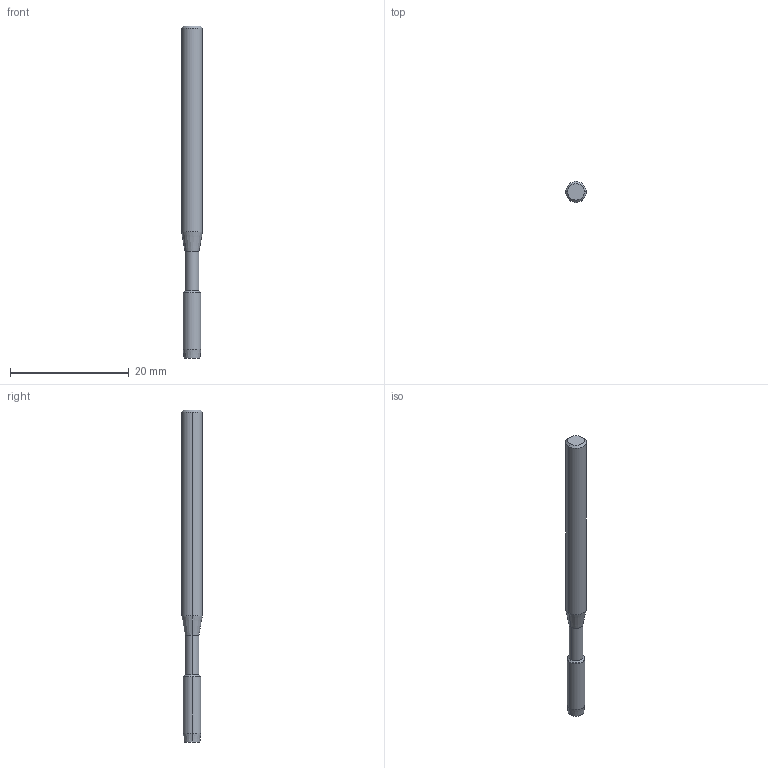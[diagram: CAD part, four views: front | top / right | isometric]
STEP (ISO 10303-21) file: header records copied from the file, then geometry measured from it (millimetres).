
FILE_DESCRIPTION (( 'STEP AP214' ), '1' );
FILE_NAME ('1710.0030.00_3D-model.step', '2022-02-25T00:56:29', ( '' ), ( '' ), 'SwSTEP 2.0', 'SolidWorks 2020', '' );
FILE_SCHEMA (( 'AUTOMOTIVE_DESIGN' ));
Length unit declared in the file: millimetre
Products named in the file (3): 1710.0030.00_3D-model; NOCUT-3D^Baugr65; CUT-3D^Baugr65
Assembly tree (2 placements, depth 2):
  1710.0030.00_3D-model
    CUT-3D^Baugr65
    NOCUT-3D^Baugr65
Bounding box: 3.5 x 3.5 x 56 mm (x, y, z)
Volume: 463.2 mm3; surface area: 768.7 mm2
Topology: 2 solids, 2 shells, 24 faces, 46 edges, 26 vertices
Faces by surface type: cylinder 10, cone 8, plane 4, torus 2
Entity records: 732 total; most frequent: DIRECTION 138, CARTESIAN_POINT 104, ORIENTED_EDGE 92, AXIS2_PLACEMENT_3D 60, EDGE_CURVE 46, CIRCLE 28, EDGE_LOOP 26, VERTEX_POINT 26
